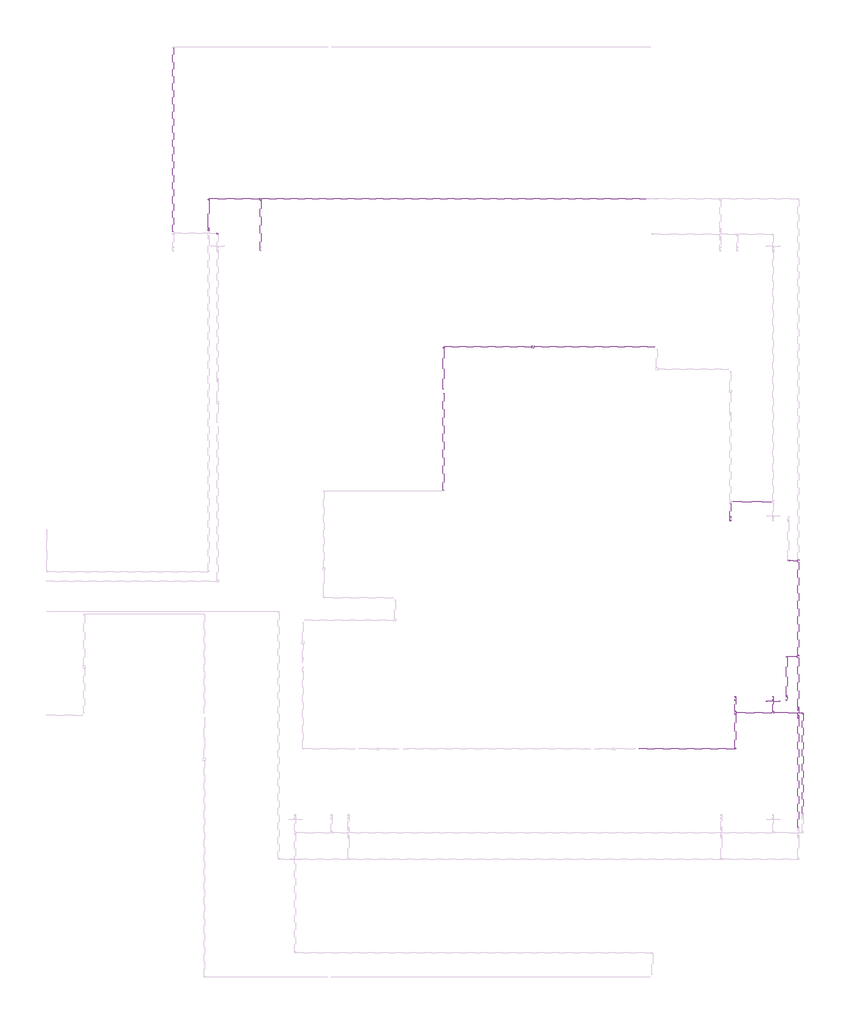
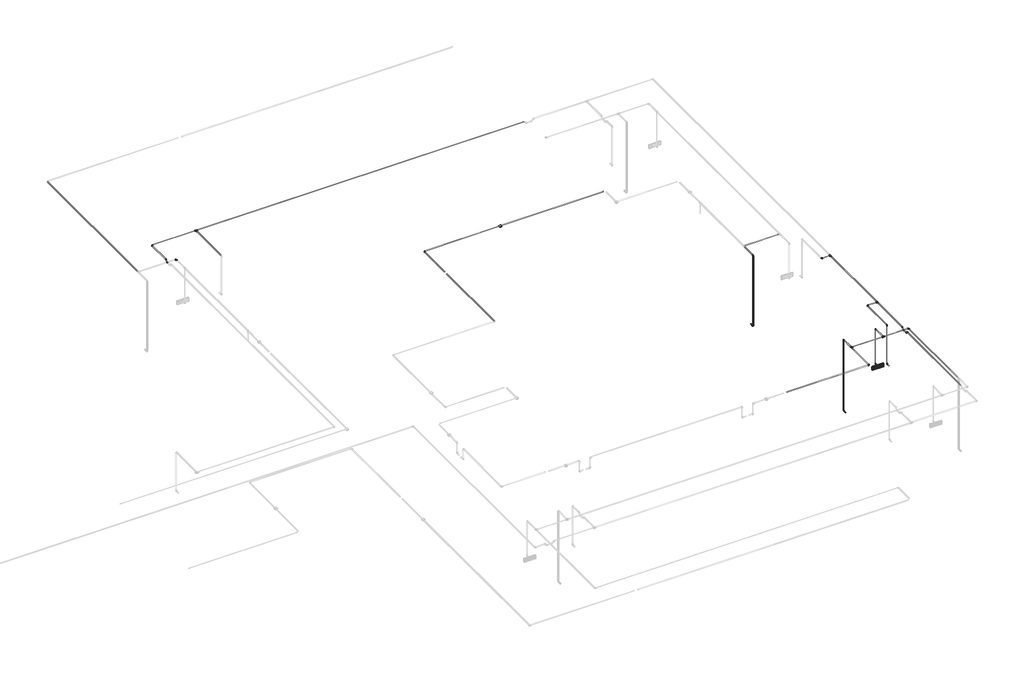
# One storey, part 12 of 13: 36 cable carrier segments, 26 cable carrier fittings, 2 alarms.
"""IFC4 building model written with IfcOpenShell, lengths in millimetres."""

from ifc_helpers import new_model, si_unit, point, frame, frame_2d, origin, place, context, project, spatial, circle_curve, trimmed, segment, composite_curve, outline, extrude, transform, mapped, element, save
from components import alarm_4b7e8fd8, alarm_a2247946, cable_carrier_fitting_69f1a801, cable_carrier_fitting_8122f9af, cable_carrier_fitting_8fd13dfc

model = new_model("IFC4")

# Units and contexts
model_context = context("Model", 3, world=origin())
ifc_project = project(units=[si_unit("LENGTHUNIT", "METRE", prefix="MILLI")], contexts=[model_context])

# Site, building, storey
site = spatial("IfcSite", under=ifc_project)
building = spatial("IfcBuilding", under=site)
storey = spatial("IfcBuildingStorey", under=building, Name="2 этаж", Elevation=3500.0)

# Alarms
placement = place(None, origin())
alarm_shape = alarm_4b7e8fd8(model_context)
element("IfcAlarm", 1, ObjectType="RBZ_Оповещатель_Световой_Рубеж_ОПОП1-R3(грань) : ОПОП 1-R3 \"Выход\"", at=placement, inside=storey, context=model_context, shape_type="MappedRepresentation", body=[
    mapped(alarm_shape, transform((19112.6759979, 2468.1849883, 6000.0), x_axis=(1.0, 0.0, 0.0), y_axis=(0.0, 0.0, 1.0), z_axis=(0.0, -1.0, 0.0))),
])
alarm_2_shape = alarm_a2247946(model_context)
element("IfcAlarm", 2, ObjectType="RBZ_ИзоляторШлейфа_Рубеж_ИЗ-1_прот.R3(плоскость) : ИЗ-1 прот.R3", at=placement, inside=storey, context=model_context, shape_type="MappedRepresentation", body=[
    mapped(alarm_2_shape, transform((13700.1257851, 10444.6370105, 6997.7), x_axis=(1.0, 0.0, 0.0), y_axis=(0.0, 1.0, 0.0), z_axis=(0.0, 0.0, 1.0))),
])

# Cable carrier fittings
cable_carrier_fitting_shape = cable_carrier_fitting_69f1a801(model_context)
element("IfcCableCarrierFitting", 3, ObjectType="ADSK_Поворот_Минимальный размер : Неспецифицируемый", at=placement, inside=storey, context=model_context, shape_type="MappedRepresentation", body=[
    mapped(cable_carrier_fitting_shape, transform((19452.6759979, 5624.6370105, 6990.0), x_axis=(0.0, -1.0, 0.0), y_axis=(1.0, 0.0, 0.0), z_axis=(0.0, 0.0, 1.0))),
])
element("IfcCableCarrierFitting", 4, ObjectType="ADSK_Поворот_Минимальный размер : Неспецифицируемый", at=placement, inside=storey, context=model_context, shape_type="MappedRepresentation", body=[
    mapped(cable_carrier_fitting_shape, transform((19417.6759979, 2565.3847939, 5897.4861504), x_axis=(0.0, 1.0, 0.0), y_axis=(0.0, 0.0, 1.0), z_axis=(1.0, 0.0, 0.0))),
])
element("IfcCableCarrierFitting", 5, ObjectType="ADSK_Поворот_Минимальный размер : Неспецифицируемый", at=placement, inside=storey, context=model_context, shape_type="MappedRepresentation", body=[
    mapped(cable_carrier_fitting_shape, transform((19417.6759979, 2565.3847939, 6990.0), x_axis=(0.0, 0.0, 1.0), y_axis=(0.0, 1.0, 0.0), z_axis=(-1.0, 0.0, 0.0))),
])
element("IfcCableCarrierFitting", 6, ObjectType="ADSK_Поворот_Минимальный размер : Неспецифицируемый", at=placement, inside=storey, context=model_context, shape_type="MappedRepresentation", body=[
    mapped(cable_carrier_fitting_shape, transform((19417.6759979, 3468.1849883, 6990.0), x_axis=(-1.0, 0.0, 0.0), y_axis=(0.0, -1.0, 0.0), z_axis=(0.0, 0.0, 1.0))),
])
element("IfcCableCarrierFitting", 7, ObjectType="ADSK_Поворот_Минимальный размер : Неспецифицируемый", at=placement, inside=storey, context=model_context, shape_type="MappedRepresentation", body=[
    mapped(cable_carrier_fitting_shape, transform((19782.6759979, 2200.701198, 6986.95), x_axis=(0.0, 1.0, 0.0), y_axis=(-1.0, 0.0, 0.0), z_axis=(0.0, 0.0, 1.0))),
])
element("IfcCableCarrierFitting", 8, ObjectType="ADSK_Поворот_Минимальный размер : Неспецифицируемый", at=placement, inside=storey, context=model_context, shape_type="MappedRepresentation", body=[
    mapped(cable_carrier_fitting_shape, transform((19112.6759979, 2565.3847939, 6000.0), x_axis=(0.0, 1.0, 0.0), y_axis=(0.0, 0.0, 1.0), z_axis=(1.0, 0.0, 0.0))),
])
element("IfcCableCarrierFitting", 9, ObjectType="ADSK_Поворот_Минимальный размер : Неспецифицируемый", at=placement, inside=storey, context=model_context, shape_type="MappedRepresentation", body=[
    mapped(cable_carrier_fitting_shape, transform((19112.6759979, 2565.3847939, 6986.95), x_axis=(0.0, 0.0, 1.0), y_axis=(0.0, -1.0, 0.0), z_axis=(1.0, 0.0, 0.0))),
])
element("IfcCableCarrierFitting", 10, ObjectType="ADSK_Поворот_Минимальный размер : Неспецифицируемый", at=placement, inside=storey, context=model_context, shape_type="MappedRepresentation", body=[
    mapped(cable_carrier_fitting_shape, transform((18262.6759979, 1384.6370105, 6986.95), x_axis=(1.0, 0.0, 0.0), y_axis=(0.0, 1.0, 0.0), z_axis=(0.0, 0.0, 1.0))),
])
element("IfcCableCarrierFitting", 11, ObjectType="ADSK_Поворот_Минимальный размер : Неспецифицируемый", at=placement, inside=storey, context=model_context, shape_type="MappedRepresentation", body=[
    mapped(cable_carrier_fitting_shape, transform((18262.6759979, 2565.3847939, 5000.0), x_axis=(0.0, 1.0, 0.0), y_axis=(0.0, 0.0, 1.0), z_axis=(1.0, 0.0, 0.0))),
])
element("IfcCableCarrierFitting", 12, ObjectType="ADSK_Поворот_Минимальный размер : Неспецифицируемый", at=placement, inside=storey, context=model_context, shape_type="MappedRepresentation", body=[
    mapped(cable_carrier_fitting_shape, transform((18262.6759979, 2565.3847939, 6986.95), x_axis=(0.0, 0.0, 1.0), y_axis=(0.0, -1.0, 0.0), z_axis=(1.0, 0.0, 0.0))),
])
element("IfcCableCarrierFitting", 13, ObjectType="ADSK_Поворот_Минимальный размер : Неспецифицируемый", at=placement, inside=storey, context=model_context, shape_type="MappedRepresentation", body=[
    mapped(cable_carrier_fitting_shape, transform((11682.6759979, 10444.6370105, 6986.95), x_axis=(-1.0, 0.0, 0.0), y_axis=(0.0, -1.0, 0.0), z_axis=(0.0, 0.0, 1.0))),
])
element("IfcCableCarrierFitting", 14, ObjectType="ADSK_Поворот_Минимальный размер : Неспецифицируемый", at=placement, inside=storey, context=model_context, shape_type="MappedRepresentation", body=[
    mapped(cable_carrier_fitting_shape, transform((18152.6759979, 6527.4372049, 5000.0), x_axis=(0.0, -1.0, 0.0), y_axis=(0.0, 0.0, 1.0), z_axis=(-1.0, 0.0, 0.0))),
])
element("IfcCableCarrierFitting", 15, ObjectType="ADSK_Поворот_Минимальный размер : Неспецифицируемый", at=placement, inside=storey, context=model_context, shape_type="MappedRepresentation", body=[
    mapped(cable_carrier_fitting_shape, transform((18152.6759979, 6527.4372049, 6986.95), x_axis=(0.0, 0.0, 1.0), y_axis=(0.0, 1.0, 0.0), z_axis=(-1.0, 0.0, 0.0))),
])
element("IfcCableCarrierFitting", 16, ObjectType="ADSK_Поворот_Минимальный размер : Неспецифицируемый", at=placement, inside=storey, context=model_context, shape_type="MappedRepresentation", body=[
    mapped(cable_carrier_fitting_shape, transform((6587.6759979, 13009.6578584, 6986.95), x_axis=(0.0, 1.0, 0.0), y_axis=(-1.0, 0.0, 0.0), z_axis=(0.0, 0.0, 1.0))),
])
element("IfcCableCarrierFitting", 17, ObjectType="ADSK_Поворот_Минимальный размер : Неспецифицируемый", at=placement, inside=storey, context=model_context, shape_type="MappedRepresentation", body=[
    mapped(cable_carrier_fitting_shape, transform((6382.6759979, 13781.6519004, 6990.0), x_axis=(-1.0, 0.0, 0.0), y_axis=(0.0, -1.0, 0.0), z_axis=(0.0, 0.0, 1.0))),
])
cable_carrier_fitting_2_shape = cable_carrier_fitting_8122f9af(model_context)
element("IfcCableCarrierFitting", 18, ObjectType="ADSK_Поворот_Минимальный размер : Неспецифицируемый", at=placement, inside=storey, context=model_context, shape_type="MappedRepresentation", body=[
    mapped(cable_carrier_fitting_2_shape, transform((19682.6759979, 2317.2734693, 6990.0), x_axis=(0.0, -1.0, 0.0), y_axis=(0.0, 0.0, -1.0), z_axis=(1.0, 0.0, 0.0))),
])
element("IfcCableCarrierFitting", 19, ObjectType="ADSK_Поворот_Минимальный размер : Неспецифицируемый", at=placement, inside=storey, context=model_context, shape_type="MappedRepresentation", body=[
    mapped(cable_carrier_fitting_2_shape, transform((19682.6759979, 2267.2734693, 6940.0), x_axis=(0.0, -0.707106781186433, -0.7071067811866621), y_axis=(0.0, -0.7071067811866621, 0.707106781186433), z_axis=(-1.0, 0.0, 0.0))),
])
element("IfcCableCarrierFitting", 20, ObjectType="ADSK_Поворот_Минимальный размер : Неспецифицируемый", at=placement, inside=storey, context=model_context, shape_type="MappedRepresentation", body=[
    mapped(cable_carrier_fitting_2_shape, transform((19682.6759979, 2134.1289268, 6940.0), x_axis=(0.0, -1.0, 0.0), y_axis=(0.0, 0.0, 1.0), z_axis=(-1.0, 0.0, 0.0))),
])
element("IfcCableCarrierFitting", 21, ObjectType="ADSK_Поворот_Минимальный размер : Неспецифицируемый", at=placement, inside=storey, context=model_context, shape_type="MappedRepresentation", body=[
    mapped(cable_carrier_fitting_2_shape, transform((19682.6759979, 2084.1289268, 6990.0), x_axis=(0.0, -0.7071067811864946, 0.7071067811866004), y_axis=(0.0, -0.7071067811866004, -0.7071067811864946), z_axis=(1.0, 0.0, 0.0))),
])
element("IfcCableCarrierFitting", 22, ObjectType="ADSK_Поворот_Минимальный размер : Неспецифицируемый", at=placement, inside=storey, context=model_context, shape_type="MappedRepresentation", body=[
    mapped(cable_carrier_fitting_2_shape, transform((6382.6759979, 13076.2301296, 6940.0), x_axis=(0.0, 1.0, 0.0), y_axis=(0.0, 0.0, 1.0), z_axis=(1.0, 0.0, 0.0))),
])
element("IfcCableCarrierFitting", 23, ObjectType="ADSK_Поворот_Минимальный размер : Неспецифицируемый", at=placement, inside=storey, context=model_context, shape_type="MappedRepresentation", body=[
    mapped(cable_carrier_fitting_2_shape, transform((6382.6759979, 13126.2301296, 6990.0), x_axis=(0.0, 0.7071067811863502, 0.7071067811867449), y_axis=(0.0, 0.7071067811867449, -0.7071067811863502), z_axis=(-1.0, 0.0, 0.0))),
])
cable_carrier_fitting_3_shape = cable_carrier_fitting_8fd13dfc(model_context)
element("IfcCableCarrierFitting", 24, ObjectType="ADSK_Тройник : ПВХ", at=placement, inside=storey, context=model_context, shape_type="MappedRepresentation", body=[
    mapped(cable_carrier_fitting_3_shape, transform((7560.1759979, 13781.6519004, 6990.0), x_axis=(1.0, 0.0, 0.0), y_axis=(0.0, 1.0, 0.0), z_axis=(0.0, 0.0, 1.0))),
])
element("IfcCableCarrierFitting", 25, ObjectType="ADSK_Тройник : ПВХ", at=placement, inside=storey, context=model_context, shape_type="MappedRepresentation", body=[
    mapped(cable_carrier_fitting_3_shape, transform((19682.6759979, 5624.6370105, 6990.0), x_axis=(0.0, -1.0, 0.0), y_axis=(1.0, 0.0, 0.0), z_axis=(0.0, 0.0, 1.0))),
])
element("IfcCableCarrierFitting", 26, ObjectType="ADSK_Тройник : ПВХ", at=placement, inside=storey, context=model_context, shape_type="MappedRepresentation", body=[
    mapped(cable_carrier_fitting_3_shape, transform((19682.6759979, 3468.1849883, 6990.0), x_axis=(0.0, -1.0, 0.0), y_axis=(1.0, 0.0, 0.0), z_axis=(0.0, 0.0, 1.0))),
])
element("IfcCableCarrierFitting", 27, ObjectType="ADSK_Тройник : ПВХ", at=placement, inside=storey, context=model_context, shape_type="MappedRepresentation", body=[
    mapped(cable_carrier_fitting_3_shape, transform((19112.6759979, 2200.701198, 6986.95), x_axis=(-1.0, 0.0, 0.0), y_axis=(0.0, -1.0, 0.0), z_axis=(0.0, 0.0, 1.0))),
])
element("IfcCableCarrierFitting", 28, ObjectType="ADSK_Тройник : ПВХ", at=placement, inside=storey, context=model_context, shape_type="MappedRepresentation", body=[
    mapped(cable_carrier_fitting_3_shape, transform((18262.6759979, 2200.701198, 6986.95), x_axis=(0.0, 1.0, 0.0), y_axis=(-1.0, 0.0, 0.0), z_axis=(0.0, 0.0, 1.0))),
])

# Cable carrier segments
element("IfcCableCarrierSegment", 29, ObjectType="Гофрированная труба", at=placement, inside=storey, context=model_context, shape_type="SweptSolid", body=[
    extrude(outline(composite_curve([segment(trimmed(circle_curve(frame_2d((2200.701198, 6986.95)), 10.0), [point((2190.701198, 6986.95))], [point((2200.701198, 6996.95))], False, "CARTESIAN"), True, "CONTINUOUS"), segment(trimmed(circle_curve(frame_2d((2200.701198, 6986.95)), 10.0), [point((2200.701198, 6996.95))], [point((2210.701198, 6986.95))], False, "CARTESIAN"), True, "CONTINUOUS"), segment(trimmed(circle_curve(frame_2d((2200.701198, 6986.95)), 10.0), [point((2210.701198, 6986.95))], [point((2200.701198, 6976.95))], False, "CARTESIAN"), True, "CONTINUOUS"), segment(trimmed(circle_curve(frame_2d((2200.701198, 6986.95)), 10.0), [point((2200.701198, 6976.95))], [point((2190.701198, 6986.95))], False, "CARTESIAN"), True, "CONTINUOUS")], self_intersect=False)), frame((19142.6759979, 0.0, 0.0), z_axis=(1.0, 0.0, 0.0), x_axis=(0.0, 1.0, 0.0)), (0.0, 0.0, 1.0), 619.0),
])
element("IfcCableCarrierSegment", 30, ObjectType="Гофрированная труба", at=placement, inside=storey, context=model_context, shape_type="SweptSolid", body=[
    extrude(outline(composite_curve([segment(trimmed(circle_curve(frame_2d((6954.6370105, 6986.9498328)), 10.0), [point((6964.6370105, 6986.9498328))], [point((6954.6370105, 6976.9498328))], False, "CARTESIAN"), True, "CONTINUOUS"), segment(trimmed(circle_curve(frame_2d((6954.6370105, 6986.9498328)), 10.0), [point((6954.6370105, 6976.9498328))], [point((6944.6370105, 6986.9498328))], False, "CARTESIAN"), True, "CONTINUOUS"), segment(trimmed(circle_curve(frame_2d((6954.6370105, 6986.9498328)), 10.0), [point((6944.6370105, 6986.9498328))], [point((6954.6370105, 6996.9498328))], False, "CARTESIAN"), True, "CONTINUOUS"), segment(trimmed(circle_curve(frame_2d((6954.6370105, 6986.9498328)), 10.0), [point((6954.6370105, 6996.9498328))], [point((6964.6370105, 6986.9498328))], False, "CARTESIAN"), True, "CONTINUOUS")], self_intersect=False)), frame((18182.6759979, 0.0, 0.0), z_axis=(1.0, 0.0, 0.0), x_axis=(0.0, 1.0, 0.0)), (0.0, 0.0, 1.0), 900.0),
])
element("IfcCableCarrierSegment", 31, ObjectType="Гофрированная труба", at=placement, inside=storey, context=model_context, shape_type="SweptSolid", body=[
    extrude(outline(composite_curve([segment(trimmed(circle_curve(frame_2d((6986.95, 5582.6759979)), 10.0), [point((6986.95, 5592.6759979))], [point((6996.95, 5582.6759979))], False, "CARTESIAN"), True, "CONTINUOUS"), segment(trimmed(circle_curve(frame_2d((6986.95, 5582.6759979)), 10.0), [point((6996.95, 5582.6759979))], [point((6986.95, 5572.6759979))], False, "CARTESIAN"), True, "CONTINUOUS"), segment(trimmed(circle_curve(frame_2d((6986.95, 5582.6759979)), 10.0), [point((6986.95, 5572.6759979))], [point((6976.95, 5582.6759979))], False, "CARTESIAN"), True, "CONTINUOUS"), segment(trimmed(circle_curve(frame_2d((6986.95, 5582.6759979)), 10.0), [point((6976.95, 5582.6759979))], [point((6986.95, 5592.6759979))], False, "CARTESIAN"), True, "CONTINUOUS")], self_intersect=False)), frame((0.0, 13039.6578584, 0.0), z_axis=(0.0, 1.0, 0.0), x_axis=(0.0, 0.0, 1.0)), (0.0, 0.0, 1.0), 4143.9791522),
])
element("IfcCableCarrierSegment", 32, ObjectType="Гофрированная труба", at=placement, inside=storey, context=model_context, shape_type="SweptSolid", body=[
    extrude(outline(composite_curve([segment(trimmed(circle_curve(frame_2d((10444.6370105, 6986.95)), 10.0), [point((10454.6370105, 6986.95))], [point((10444.6370105, 6976.95))], False, "CARTESIAN"), True, "CONTINUOUS"), segment(trimmed(circle_curve(frame_2d((10444.6370105, 6986.95)), 10.0), [point((10444.6370105, 6976.95))], [point((10434.6370105, 6986.95))], False, "CARTESIAN"), True, "CONTINUOUS"), segment(trimmed(circle_curve(frame_2d((10444.6370105, 6986.95)), 10.0), [point((10434.6370105, 6986.95))], [point((10444.6370105, 6996.95))], False, "CARTESIAN"), True, "CONTINUOUS"), segment(trimmed(circle_curve(frame_2d((10444.6370105, 6986.95)), 10.0), [point((10444.6370105, 6996.95))], [point((10454.6370105, 6986.95))], False, "CARTESIAN"), True, "CONTINUOUS")], self_intersect=False)), frame((13726.1257851, 0.0, 0.0), z_axis=(1.0, 0.0, 0.0), x_axis=(0.0, 1.0, 0.0)), (0.0, 0.0, 1.0), 2722.5502128),
])
element("IfcCableCarrierSegment", 33, ObjectType="Гофрированная труба", at=placement, inside=storey, context=model_context, shape_type="SweptSolid", body=[
    extrude(outline(composite_curve([segment(trimmed(circle_curve(frame_2d((6986.95, 11682.6759979)), 10.0), [point((6986.95, 11692.6759979))], [point((6996.95, 11682.6759979))], False, "CARTESIAN"), True, "CONTINUOUS"), segment(trimmed(circle_curve(frame_2d((6986.95, 11682.6759979)), 10.0), [point((6996.95, 11682.6759979))], [point((6986.95, 11672.6759979))], False, "CARTESIAN"), True, "CONTINUOUS"), segment(trimmed(circle_curve(frame_2d((6986.95, 11682.6759979)), 10.0), [point((6986.95, 11672.6759979))], [point((6976.95, 11682.6759979))], False, "CARTESIAN"), True, "CONTINUOUS"), segment(trimmed(circle_curve(frame_2d((6986.95, 11682.6759979)), 10.0), [point((6976.95, 11682.6759979))], [point((6986.95, 11692.6759979))], False, "CARTESIAN"), True, "CONTINUOUS")], self_intersect=False)), frame((0.0, 9491.1370105, 0.0), z_axis=(0.0, 1.0, 0.0), x_axis=(0.0, 0.0, 1.0)), (0.0, 0.0, 1.0), 932.5),
])
element("IfcCableCarrierSegment", 34, ObjectType="Гофрированная труба", at=placement, inside=storey, context=model_context, shape_type="SweptSolid", body=[
    extrude(outline(composite_curve([segment(trimmed(circle_curve(frame_2d((10444.6370105, 6986.95)), 10.0), [point((10434.6370105, 6986.95))], [point((10444.6370105, 6996.95))], False, "CARTESIAN"), True, "CONTINUOUS"), segment(trimmed(circle_curve(frame_2d((10444.6370105, 6986.95)), 10.0), [point((10444.6370105, 6996.95))], [point((10454.6370105, 6986.95))], False, "CARTESIAN"), True, "CONTINUOUS"), segment(trimmed(circle_curve(frame_2d((10444.6370105, 6986.95)), 10.0), [point((10454.6370105, 6986.95))], [point((10444.6370105, 6976.95))], False, "CARTESIAN"), True, "CONTINUOUS"), segment(trimmed(circle_curve(frame_2d((10444.6370105, 6986.95)), 10.0), [point((10444.6370105, 6976.95))], [point((10434.6370105, 6986.95))], False, "CARTESIAN"), True, "CONTINUOUS")], self_intersect=False)), frame((11703.6759979, 0.0, 0.0), z_axis=(1.0, 0.0, 0.0), x_axis=(0.0, 1.0, 0.0)), (0.0, 0.0, 1.0), 1970.4497872),
])
element("IfcCableCarrierSegment", 35, ObjectType="Гофрированная труба", at=placement, inside=storey, context=model_context, shape_type="SweptSolid", body=[
    extrude(outline(composite_curve([segment(trimmed(circle_curve(frame_2d((6986.95, 11682.6759979)), 10.0), [point((6986.95, 11672.6759979))], [point((6976.95, 11682.6759979))], False, "CARTESIAN"), True, "CONTINUOUS"), segment(trimmed(circle_curve(frame_2d((6986.95, 11682.6759979)), 10.0), [point((6976.95, 11682.6759979))], [point((6986.95, 11692.6759979))], False, "CARTESIAN"), True, "CONTINUOUS"), segment(trimmed(circle_curve(frame_2d((6986.95, 11682.6759979)), 10.0), [point((6986.95, 11692.6759979))], [point((6996.95, 11682.6759979))], False, "CARTESIAN"), True, "CONTINUOUS"), segment(trimmed(circle_curve(frame_2d((6986.95, 11682.6759979)), 10.0), [point((6996.95, 11682.6759979))], [point((6986.95, 11672.6759979))], False, "CARTESIAN"), True, "CONTINUOUS")], self_intersect=False)), frame((0.0, 7219.1370105, 0.0), z_axis=(0.0, 1.0, 0.0), x_axis=(0.0, 0.0, 1.0)), (0.0, 0.0, 1.0), 2179.0),
])
element("IfcCableCarrierSegment", 36, ObjectType="Гофрированная труба", at=placement, inside=storey, context=model_context, shape_type="SweptSolid", body=[
    extrude(outline(composite_curve([segment(trimmed(circle_curve(frame_2d((1384.6370105, 6986.95)), 10.0), [point((1394.6370105, 6986.95))], [point((1384.6370105, 6976.95))], False, "CARTESIAN"), True, "CONTINUOUS"), segment(trimmed(circle_curve(frame_2d((1384.6370105, 6986.95)), 10.0), [point((1384.6370105, 6976.95))], [point((1374.6370105, 6986.95))], False, "CARTESIAN"), True, "CONTINUOUS"), segment(trimmed(circle_curve(frame_2d((1384.6370105, 6986.95)), 10.0), [point((1374.6370105, 6986.95))], [point((1384.6370105, 6996.95))], False, "CARTESIAN"), True, "CONTINUOUS"), segment(trimmed(circle_curve(frame_2d((1384.6370105, 6986.95)), 10.0), [point((1384.6370105, 6996.95))], [point((1394.6370105, 6986.95))], False, "CARTESIAN"), True, "CONTINUOUS")], self_intersect=False)), frame((16084.1759979, 0.0, 0.0), z_axis=(1.0, 0.0, 0.0), x_axis=(0.0, 1.0, 0.0)), (0.0, 0.0, 1.0), 2157.5),
])
element("IfcCableCarrierSegment", 37, ObjectType="Гофрированная труба", at=placement, inside=storey, context=model_context, shape_type="SweptSolid", body=[
    extrude(outline(composite_curve([segment(trimmed(circle_curve(frame_2d((6990.0, 7560.1759979)), 10.0), [point((6990.0, 7550.1759979))], [point((6980.0, 7560.1759979))], False, "CARTESIAN"), True, "CONTINUOUS"), segment(trimmed(circle_curve(frame_2d((6990.0, 7560.1759979)), 10.0), [point((6980.0, 7560.1759979))], [point((6990.0, 7570.1759979))], False, "CARTESIAN"), True, "CONTINUOUS"), segment(trimmed(circle_curve(frame_2d((6990.0, 7560.1759979)), 10.0), [point((6990.0, 7570.1759979))], [point((7000.0, 7560.1759979))], False, "CARTESIAN"), True, "CONTINUOUS"), segment(trimmed(circle_curve(frame_2d((6990.0, 7560.1759979)), 10.0), [point((7000.0, 7560.1759979))], [point((6990.0, 7550.1759979))], False, "CARTESIAN"), True, "CONTINUOUS")], self_intersect=False)), frame((0.0, 12628.4372049, 0.0), z_axis=(0.0, 1.0, 0.0), x_axis=(0.0, 0.0, 1.0)), (0.0, 0.0, 1.0), 1123.2146954),
])
element("IfcCableCarrierSegment", 38, ObjectType="Гофрированная труба", at=placement, inside=storey, context=model_context, shape_type="SweptSolid", body=[
    extrude(outline(composite_curve([segment(trimmed(circle_curve(frame_2d((13781.6519004, 6990.0)), 10.0), [point((13771.6519004, 6990.0))], [point((13781.6519004, 7000.0))], False, "CARTESIAN"), True, "CONTINUOUS"), segment(trimmed(circle_curve(frame_2d((13781.6519004, 6990.0)), 10.0), [point((13781.6519004, 7000.0))], [point((13791.6519004, 6990.0))], False, "CARTESIAN"), True, "CONTINUOUS"), segment(trimmed(circle_curve(frame_2d((13781.6519004, 6990.0)), 10.0), [point((13791.6519004, 6990.0))], [point((13781.6519004, 6980.0))], False, "CARTESIAN"), True, "CONTINUOUS"), segment(trimmed(circle_curve(frame_2d((13781.6519004, 6990.0)), 10.0), [point((13781.6519004, 6980.0))], [point((13771.6519004, 6990.0))], False, "CARTESIAN"), True, "CONTINUOUS")], self_intersect=False)), frame((6403.6759979, 0.0, 0.0), z_axis=(1.0, 0.0, 0.0), x_axis=(0.0, 1.0, 0.0)), (0.0, 0.0, 1.0), 1126.5),
])
element("IfcCableCarrierSegment", 39, ObjectType="Гофрированная труба", at=placement, inside=storey, context=model_context, shape_type="SweptSolid", body=[
    extrude(outline(composite_curve([segment(trimmed(circle_curve(frame_2d((5624.6370105, 6990.0)), 10.0), [point((5634.6370105, 6990.0))], [point((5624.6370105, 6980.0))], False, "CARTESIAN"), True, "CONTINUOUS"), segment(trimmed(circle_curve(frame_2d((5624.6370105, 6990.0)), 10.0), [point((5624.6370105, 6980.0))], [point((5614.6370105, 6990.0))], False, "CARTESIAN"), True, "CONTINUOUS"), segment(trimmed(circle_curve(frame_2d((5624.6370105, 6990.0)), 10.0), [point((5614.6370105, 6990.0))], [point((5624.6370105, 7000.0))], False, "CARTESIAN"), True, "CONTINUOUS"), segment(trimmed(circle_curve(frame_2d((5624.6370105, 6990.0)), 10.0), [point((5624.6370105, 7000.0))], [point((5634.6370105, 6990.0))], False, "CARTESIAN"), True, "CONTINUOUS")], self_intersect=False)), frame((19473.6759979, 0.0, 0.0), z_axis=(1.0, 0.0, 0.0), x_axis=(0.0, 1.0, 0.0)), (0.0, 0.0, 1.0), 179.0),
])
element("IfcCableCarrierSegment", 40, ObjectType="Гофрированная труба", at=placement, inside=storey, context=model_context, shape_type="SweptSolid", body=[
    extrude(outline(composite_curve([segment(trimmed(circle_curve(frame_2d((6990.0, 19417.6759979)), 10.0), [point((6990.0, 19427.6759979))], [point((7000.0, 19417.6759979))], False, "CARTESIAN"), True, "CONTINUOUS"), segment(trimmed(circle_curve(frame_2d((6990.0, 19417.6759979)), 10.0), [point((7000.0, 19417.6759979))], [point((6990.0, 19407.6759979))], False, "CARTESIAN"), True, "CONTINUOUS"), segment(trimmed(circle_curve(frame_2d((6990.0, 19417.6759979)), 10.0), [point((6990.0, 19407.6759979))], [point((6980.0, 19417.6759979))], False, "CARTESIAN"), True, "CONTINUOUS"), segment(trimmed(circle_curve(frame_2d((6990.0, 19417.6759979)), 10.0), [point((6980.0, 19417.6759979))], [point((6990.0, 19427.6759979))], False, "CARTESIAN"), True, "CONTINUOUS")], self_intersect=False)), frame((0.0, 2586.3847939, 0.0), z_axis=(0.0, 1.0, 0.0), x_axis=(0.0, 0.0, 1.0)), (0.0, 0.0, 1.0), 860.8001944),
])
element("IfcCableCarrierSegment", 41, ObjectType="Гофрированная труба", at=placement, inside=storey, context=model_context, shape_type="SweptSolid", body=[
    extrude(outline(composite_curve([segment(trimmed(circle_curve(frame_2d((5897.4861504, 19417.6759979)), 10.0), [point((5897.4861504, 19427.6759979))], [point((5907.4861504, 19417.6759979))], False, "CARTESIAN"), True, "CONTINUOUS"), segment(trimmed(circle_curve(frame_2d((5897.4861504, 19417.6759979)), 10.0), [point((5907.4861504, 19417.6759979))], [point((5897.4861504, 19407.6759979))], False, "CARTESIAN"), True, "CONTINUOUS"), segment(trimmed(circle_curve(frame_2d((5897.4861504, 19417.6759979)), 10.0), [point((5897.4861504, 19407.6759979))], [point((5887.4861504, 19417.6759979))], False, "CARTESIAN"), True, "CONTINUOUS"), segment(trimmed(circle_curve(frame_2d((5897.4861504, 19417.6759979)), 10.0), [point((5887.4861504, 19417.6759979))], [point((5897.4861504, 19427.6759979))], False, "CARTESIAN"), True, "CONTINUOUS")], self_intersect=False)), frame((0.0, 2468.1849883, 0.0), z_axis=(0.0, 1.0, 0.0), x_axis=(0.0, 0.0, 1.0)), (0.0, 0.0, 1.0), 76.1998056),
])
element("IfcCableCarrierSegment", 42, ObjectType="Гофрированная труба", at=placement, inside=storey, context=model_context, shape_type="SweptSolid", body=[
    extrude(outline(composite_curve([segment(trimmed(circle_curve(frame_2d((19417.6759979, 2565.3847939)), 10.0), [point((19407.6759979, 2565.3847939))], [point((19417.6759979, 2575.3847939))], False, "CARTESIAN"), True, "CONTINUOUS"), segment(trimmed(circle_curve(frame_2d((19417.6759979, 2565.3847939)), 10.0), [point((19417.6759979, 2575.3847939))], [point((19427.6759979, 2565.3847939))], False, "CARTESIAN"), True, "CONTINUOUS"), segment(trimmed(circle_curve(frame_2d((19417.6759979, 2565.3847939)), 10.0), [point((19427.6759979, 2565.3847939))], [point((19417.6759979, 2555.3847939))], False, "CARTESIAN"), True, "CONTINUOUS"), segment(trimmed(circle_curve(frame_2d((19417.6759979, 2565.3847939)), 10.0), [point((19417.6759979, 2555.3847939))], [point((19407.6759979, 2565.3847939))], False, "CARTESIAN"), True, "CONTINUOUS")], self_intersect=False)), frame((0.0, 0.0, 5918.4861504), z_axis=(0.0, 0.0, 1.0), x_axis=(1.0, 0.0, 0.0)), (0.0, 0.0, 1.0), 1050.5138496),
])
element("IfcCableCarrierSegment", 43, ObjectType="Гофрированная труба", at=placement, inside=storey, context=model_context, shape_type="SweptSolid", body=[
    extrude(outline(composite_curve([segment(trimmed(circle_curve(frame_2d((3468.1849883, 6990.0)), 10.0), [point((3478.1849883, 6990.0))], [point((3468.1849883, 6980.0))], False, "CARTESIAN"), True, "CONTINUOUS"), segment(trimmed(circle_curve(frame_2d((3468.1849883, 6990.0)), 10.0), [point((3468.1849883, 6980.0))], [point((3458.1849883, 6990.0))], False, "CARTESIAN"), True, "CONTINUOUS"), segment(trimmed(circle_curve(frame_2d((3468.1849883, 6990.0)), 10.0), [point((3458.1849883, 6990.0))], [point((3468.1849883, 7000.0))], False, "CARTESIAN"), True, "CONTINUOUS"), segment(trimmed(circle_curve(frame_2d((3468.1849883, 6990.0)), 10.0), [point((3468.1849883, 7000.0))], [point((3478.1849883, 6990.0))], False, "CARTESIAN"), True, "CONTINUOUS")], self_intersect=False)), frame((19438.6759979, 0.0, 0.0), z_axis=(1.0, 0.0, 0.0), x_axis=(0.0, 1.0, 0.0)), (0.0, 0.0, 1.0), 214.0),
])
element("IfcCableCarrierSegment", 44, ObjectType="Гофрированная труба", at=placement, inside=storey, context=model_context, shape_type="SweptSolid", body=[
    extrude(outline(composite_curve([segment(trimmed(circle_curve(frame_2d((6990.0, 19682.6759979)), 10.0), [point((6990.0, 19672.6759979))], [point((6980.0, 19682.6759979))], False, "CARTESIAN"), True, "CONTINUOUS"), segment(trimmed(circle_curve(frame_2d((6990.0, 19682.6759979)), 10.0), [point((6980.0, 19682.6759979))], [point((6990.0, 19692.6759979))], False, "CARTESIAN"), True, "CONTINUOUS"), segment(trimmed(circle_curve(frame_2d((6990.0, 19682.6759979)), 10.0), [point((6990.0, 19692.6759979))], [point((7000.0, 19682.6759979))], False, "CARTESIAN"), True, "CONTINUOUS"), segment(trimmed(circle_curve(frame_2d((6990.0, 19682.6759979)), 10.0), [point((7000.0, 19682.6759979))], [point((6990.0, 19672.6759979))], False, "CARTESIAN"), True, "CONTINUOUS")], self_intersect=False)), frame((0.0, 3498.1849883, 0.0), z_axis=(0.0, 1.0, 0.0), x_axis=(0.0, 0.0, 1.0)), (0.0, 0.0, 1.0), 2096.4520223),
])
element("IfcCableCarrierSegment", 45, ObjectType="Гофрированная труба", at=placement, inside=storey, context=model_context, shape_type="SweptSolid", body=[
    extrude(outline(composite_curve([segment(trimmed(circle_curve(frame_2d((6940.0, 19682.6759979)), 10.0), [point((6940.0, 19672.6759979))], [point((6930.0, 19682.6759979))], False, "CARTESIAN"), True, "CONTINUOUS"), segment(trimmed(circle_curve(frame_2d((6940.0, 19682.6759979)), 10.0), [point((6930.0, 19682.6759979))], [point((6940.0, 19692.6759979))], False, "CARTESIAN"), True, "CONTINUOUS"), segment(trimmed(circle_curve(frame_2d((6940.0, 19682.6759979)), 10.0), [point((6940.0, 19692.6759979))], [point((6950.0, 19682.6759979))], False, "CARTESIAN"), True, "CONTINUOUS"), segment(trimmed(circle_curve(frame_2d((6940.0, 19682.6759979)), 10.0), [point((6950.0, 19682.6759979))], [point((6940.0, 19672.6759979))], False, "CARTESIAN"), True, "CONTINUOUS")], self_intersect=False)), frame((0.0, 2143.413198, 0.0), z_axis=(0.0, 1.0, 0.0), x_axis=(0.0, 0.0, 1.0)), (0.0, 0.0, 1.0), 114.576),
])
element("IfcCableCarrierSegment", 46, ObjectType="Гофрированная труба", at=placement, inside=storey, context=model_context, shape_type="SweptSolid", body=[
    extrude(outline(composite_curve([segment(trimmed(circle_curve(frame_2d((6990.0, 19682.6759979)), 10.0), [point((6990.0, 19672.6759979))], [point((6980.0, 19682.6759979))], False, "CARTESIAN"), True, "CONTINUOUS"), segment(trimmed(circle_curve(frame_2d((6990.0, 19682.6759979)), 10.0), [point((6980.0, 19682.6759979))], [point((6990.0, 19692.6759979))], False, "CARTESIAN"), True, "CONTINUOUS"), segment(trimmed(circle_curve(frame_2d((6990.0, 19682.6759979)), 10.0), [point((6990.0, 19692.6759979))], [point((7000.0, 19682.6759979))], False, "CARTESIAN"), True, "CONTINUOUS"), segment(trimmed(circle_curve(frame_2d((6990.0, 19682.6759979)), 10.0), [point((7000.0, 19682.6759979))], [point((6990.0, 19672.6759979))], False, "CARTESIAN"), True, "CONTINUOUS")], self_intersect=False)), frame((0.0, 2326.5577405, 0.0), z_axis=(0.0, 1.0, 0.0), x_axis=(0.0, 0.0, 1.0)), (0.0, 0.0, 1.0), 1111.6272477),
])
element("IfcCableCarrierSegment", 47, ObjectType="Гофрированная труба", at=placement, inside=storey, context=model_context, shape_type="SweptSolid", body=[
    extrude(outline(composite_curve([segment(trimmed(circle_curve(frame_2d((0.0, -10.0000001)), 10.0), [point((-10.0, -10.0000001))], [point((0.0, 0.0))], False, "CARTESIAN"), True, "CONTINUOUS"), segment(trimmed(circle_curve(frame_2d((0.0, -10.0000001)), 10.0), [point((0.0, 0.0))], [point((10.0, -10.0000001))], False, "CARTESIAN"), True, "CONTINUOUS"), segment(trimmed(circle_curve(frame_2d((0.0, -10.0000001)), 10.0), [point((10.0, -10.0000001))], [point((0.0, -20.0000001))], False, "CARTESIAN"), True, "CONTINUOUS"), segment(trimmed(circle_curve(frame_2d((0.0, -10.0000001)), 10.0), [point((0.0, -20.0000001))], [point((-10.0, -10.0000001))], False, "CARTESIAN"), True, "CONTINUOUS")], self_intersect=False)), frame((19682.6759979, 2280.9095083, 6939.4939033), z_axis=(0.0, 0.707106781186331, 0.7071067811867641), x_axis=(1.0, 0.0, 0.0)), (0.0, 0.0, 1.0), 52.1421356),
])
element("IfcCableCarrierSegment", 48, ObjectType="Гофрированная труба", at=placement, inside=storey, context=model_context, shape_type="SweptSolid", body=[
    extrude(outline(composite_curve([segment(trimmed(circle_curve(frame_2d((6990.0, 19682.6759979)), 10.0), [point((6990.0, 19672.6759979))], [point((6980.0, 19682.6759979))], False, "CARTESIAN"), True, "CONTINUOUS"), segment(trimmed(circle_curve(frame_2d((6990.0, 19682.6759979)), 10.0), [point((6980.0, 19682.6759979))], [point((6990.0, 19692.6759979))], False, "CARTESIAN"), True, "CONTINUOUS"), segment(trimmed(circle_curve(frame_2d((6990.0, 19682.6759979)), 10.0), [point((6990.0, 19692.6759979))], [point((7000.0, 19682.6759979))], False, "CARTESIAN"), True, "CONTINUOUS"), segment(trimmed(circle_curve(frame_2d((6990.0, 19682.6759979)), 10.0), [point((7000.0, 19682.6759979))], [point((6990.0, 19672.6759979))], False, "CARTESIAN"), True, "CONTINUOUS")], self_intersect=False)), frame((0.0, -379.506447, 0.0), z_axis=(0.0, 1.0, 0.0), x_axis=(0.0, 0.0, 1.0)), (0.0, 0.0, 1.0), 2454.3511025),
])
element("IfcCableCarrierSegment", 49, ObjectType="Гофрированная труба", at=placement, inside=storey, context=model_context, shape_type="SweptSolid", body=[
    extrude(outline(composite_curve([segment(trimmed(circle_curve(frame_2d((0.0, 10.0000001)), 10.0), [point((-10.0, 10.0000001))], [point((0.0, 20.0))], False, "CARTESIAN"), True, "CONTINUOUS"), segment(trimmed(circle_curve(frame_2d((0.0, 10.0000001)), 10.0), [point((0.0, 20.0))], [point((10.0, 10.0000001))], False, "CARTESIAN"), True, "CONTINUOUS"), segment(trimmed(circle_curve(frame_2d((0.0, 10.0000001)), 10.0), [point((10.0, 10.0000001))], [point((0.0, 0.0))], False, "CARTESIAN"), True, "CONTINUOUS"), segment(trimmed(circle_curve(frame_2d((0.0, 10.0000001)), 10.0), [point((0.0, 0.0))], [point((-10.0, 10.0000001))], False, "CARTESIAN"), True, "CONTINUOUS")], self_intersect=False)), frame((19682.6759979, 2120.4928878, 6939.4939033), z_axis=(0.0, -0.7071067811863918, 0.7071067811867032), x_axis=(1.0, 0.0, 0.0)), (0.0, 0.0, 1.0), 52.1421356),
])
element("IfcCableCarrierSegment", 50, ObjectType="Гофрированная труба", at=placement, inside=storey, context=model_context, shape_type="SweptSolid", body=[
    extrude(outline(composite_curve([segment(trimmed(circle_curve(frame_2d((13781.6519004, 6990.0)), 10.0), [point((13771.6519004, 6990.0))], [point((13781.6519004, 7000.0))], False, "CARTESIAN"), True, "CONTINUOUS"), segment(trimmed(circle_curve(frame_2d((13781.6519004, 6990.0)), 10.0), [point((13781.6519004, 7000.0))], [point((13791.6519004, 6990.0))], False, "CARTESIAN"), True, "CONTINUOUS"), segment(trimmed(circle_curve(frame_2d((13781.6519004, 6990.0)), 10.0), [point((13791.6519004, 6990.0))], [point((13781.6519004, 6980.0))], False, "CARTESIAN"), True, "CONTINUOUS"), segment(trimmed(circle_curve(frame_2d((13781.6519004, 6990.0)), 10.0), [point((13781.6519004, 6980.0))], [point((13771.6519004, 6990.0))], False, "CARTESIAN"), True, "CONTINUOUS")], self_intersect=False)), frame((7590.1759979, 0.0, 0.0), z_axis=(1.0, 0.0, 0.0), x_axis=(0.0, 1.0, 0.0)), (0.0, 0.0, 1.0), 8671.6434575),
])
element("IfcCableCarrierSegment", 51, ObjectType="Гофрированная труба", at=placement, inside=storey, context=model_context, shape_type="SweptSolid", body=[
    extrude(outline(composite_curve([segment(trimmed(circle_curve(frame_2d((6990.0, 6382.6759979)), 10.0), [point((6990.0, 6392.6759979))], [point((7000.0, 6382.6759979))], False, "CARTESIAN"), True, "CONTINUOUS"), segment(trimmed(circle_curve(frame_2d((6990.0, 6382.6759979)), 10.0), [point((7000.0, 6382.6759979))], [point((6990.0, 6372.6759979))], False, "CARTESIAN"), True, "CONTINUOUS"), segment(trimmed(circle_curve(frame_2d((6990.0, 6382.6759979)), 10.0), [point((6990.0, 6372.6759979))], [point((6980.0, 6382.6759979))], False, "CARTESIAN"), True, "CONTINUOUS"), segment(trimmed(circle_curve(frame_2d((6990.0, 6382.6759979)), 10.0), [point((6980.0, 6382.6759979))], [point((6990.0, 6392.6759979))], False, "CARTESIAN"), True, "CONTINUOUS")], self_intersect=False)), frame((0.0, 13135.5144008, 0.0), z_axis=(0.0, 1.0, 0.0), x_axis=(0.0, 0.0, 1.0)), (0.0, 0.0, 1.0), 625.1374995),
])
element("IfcCableCarrierSegment", 52, ObjectType="Гофрированная труба", at=placement, inside=storey, context=model_context, shape_type="SweptSolid", body=[
    extrude(outline(composite_curve([segment(trimmed(circle_curve(frame_2d((0.0, 10.0000001)), 10.0), [point((10.0, 10.0000001))], [point((0.0, 0.0))], False, "CARTESIAN"), True, "CONTINUOUS"), segment(trimmed(circle_curve(frame_2d((0.0, 10.0000001)), 10.0), [point((0.0, 0.0))], [point((-10.0, 10.0000001))], False, "CARTESIAN"), True, "CONTINUOUS"), segment(trimmed(circle_curve(frame_2d((0.0, 10.0000001)), 10.0), [point((-10.0, 10.0000001))], [point((0.0, 20.0000001))], False, "CARTESIAN"), True, "CONTINUOUS"), segment(trimmed(circle_curve(frame_2d((0.0, 10.0000001)), 10.0), [point((0.0, 20.0000001))], [point((10.0, 10.0000001))], False, "CARTESIAN"), True, "CONTINUOUS")], self_intersect=False)), frame((6382.6759979, 13075.7240329, 6953.636039), z_axis=(0.0, 0.7071067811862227, 0.7071067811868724), x_axis=(1.0, 0.0, 0.0)), (0.0, 0.0, 1.0), 52.1421356),
])
element("IfcCableCarrierSegment", 53, ObjectType="Гофрированная труба", at=placement, inside=storey, context=model_context, shape_type="SweptSolid", body=[
    extrude(outline(composite_curve([segment(trimmed(circle_curve(frame_2d((6986.95, 19782.6759979)), 10.0), [point((6986.95, 19792.6759979))], [point((6996.95, 19782.6759979))], False, "CARTESIAN"), True, "CONTINUOUS"), segment(trimmed(circle_curve(frame_2d((6986.95, 19782.6759979)), 10.0), [point((6996.95, 19782.6759979))], [point((6986.95, 19772.6759979))], False, "CARTESIAN"), True, "CONTINUOUS"), segment(trimmed(circle_curve(frame_2d((6986.95, 19782.6759979)), 10.0), [point((6986.95, 19772.6759979))], [point((6976.95, 19782.6759979))], False, "CARTESIAN"), True, "CONTINUOUS"), segment(trimmed(circle_curve(frame_2d((6986.95, 19782.6759979)), 10.0), [point((6976.95, 19782.6759979))], [point((6986.95, 19792.6759979))], False, "CARTESIAN"), True, "CONTINUOUS")], self_intersect=False)), frame((0.0, -68.1631839, 0.0), z_axis=(0.0, 1.0, 0.0), x_axis=(0.0, 0.0, 1.0)), (0.0, 0.0, 1.0), 2247.8643819),
])
element("IfcCableCarrierSegment", 54, ObjectType="Гофрированная труба", at=placement, inside=storey, context=model_context, shape_type="SweptSolid", body=[
    extrude(outline(composite_curve([segment(trimmed(circle_curve(frame_2d((6986.95, 19112.6759979)), 10.0), [point((6986.95, 19122.6759979))], [point((6996.95, 19112.6759979))], False, "CARTESIAN"), True, "CONTINUOUS"), segment(trimmed(circle_curve(frame_2d((6986.95, 19112.6759979)), 10.0), [point((6996.95, 19112.6759979))], [point((6986.95, 19102.6759979))], False, "CARTESIAN"), True, "CONTINUOUS"), segment(trimmed(circle_curve(frame_2d((6986.95, 19112.6759979)), 10.0), [point((6986.95, 19102.6759979))], [point((6976.95, 19112.6759979))], False, "CARTESIAN"), True, "CONTINUOUS"), segment(trimmed(circle_curve(frame_2d((6986.95, 19112.6759979)), 10.0), [point((6976.95, 19112.6759979))], [point((6986.95, 19122.6759979))], False, "CARTESIAN"), True, "CONTINUOUS")], self_intersect=False)), frame((0.0, 2230.701198, 0.0), z_axis=(0.0, 1.0, 0.0), x_axis=(0.0, 0.0, 1.0)), (0.0, 0.0, 1.0), 313.6835958),
])
element("IfcCableCarrierSegment", 55, ObjectType="Гофрированная труба", at=placement, inside=storey, context=model_context, shape_type="SweptSolid", body=[
    extrude(outline(composite_curve([segment(trimmed(circle_curve(frame_2d((6000.0, 19112.6759979)), 10.0), [point((6000.0, 19122.6759979))], [point((6010.0, 19112.6759979))], False, "CARTESIAN"), True, "CONTINUOUS"), segment(trimmed(circle_curve(frame_2d((6000.0, 19112.6759979)), 10.0), [point((6010.0, 19112.6759979))], [point((6000.0, 19102.6759979))], False, "CARTESIAN"), True, "CONTINUOUS"), segment(trimmed(circle_curve(frame_2d((6000.0, 19112.6759979)), 10.0), [point((6000.0, 19102.6759979))], [point((5990.0, 19112.6759979))], False, "CARTESIAN"), True, "CONTINUOUS"), segment(trimmed(circle_curve(frame_2d((6000.0, 19112.6759979)), 10.0), [point((5990.0, 19112.6759979))], [point((6000.0, 19122.6759979))], False, "CARTESIAN"), True, "CONTINUOUS")], self_intersect=False)), frame((0.0, 2468.1849883, 0.0), z_axis=(0.0, 1.0, 0.0), x_axis=(0.0, 0.0, 1.0)), (0.0, 0.0, 1.0), 76.1998056),
])
element("IfcCableCarrierSegment", 56, ObjectType="Гофрированная труба", at=placement, inside=storey, context=model_context, shape_type="SweptSolid", body=[
    extrude(outline(composite_curve([segment(trimmed(circle_curve(frame_2d((19112.6759979, 2565.3847939)), 10.0), [point((19102.6759979, 2565.3847939))], [point((19112.6759979, 2575.3847939))], False, "CARTESIAN"), True, "CONTINUOUS"), segment(trimmed(circle_curve(frame_2d((19112.6759979, 2565.3847939)), 10.0), [point((19112.6759979, 2575.3847939))], [point((19122.6759979, 2565.3847939))], False, "CARTESIAN"), True, "CONTINUOUS"), segment(trimmed(circle_curve(frame_2d((19112.6759979, 2565.3847939)), 10.0), [point((19122.6759979, 2565.3847939))], [point((19112.6759979, 2555.3847939))], False, "CARTESIAN"), True, "CONTINUOUS"), segment(trimmed(circle_curve(frame_2d((19112.6759979, 2565.3847939)), 10.0), [point((19112.6759979, 2555.3847939))], [point((19102.6759979, 2565.3847939))], False, "CARTESIAN"), True, "CONTINUOUS")], self_intersect=False)), frame((0.0, 0.0, 6021.0), z_axis=(0.0, 0.0, 1.0), x_axis=(1.0, 0.0, 0.0)), (0.0, 0.0, 1.0), 944.95),
])
element("IfcCableCarrierSegment", 57, ObjectType="Гофрированная труба", at=placement, inside=storey, context=model_context, shape_type="SweptSolid", body=[
    extrude(outline(composite_curve([segment(trimmed(circle_curve(frame_2d((2200.701198, 6986.95)), 10.0), [point((2210.701198, 6986.95))], [point((2200.701198, 6976.95))], False, "CARTESIAN"), True, "CONTINUOUS"), segment(trimmed(circle_curve(frame_2d((2200.701198, 6986.95)), 10.0), [point((2200.701198, 6976.95))], [point((2190.701198, 6986.95))], False, "CARTESIAN"), True, "CONTINUOUS"), segment(trimmed(circle_curve(frame_2d((2200.701198, 6986.95)), 10.0), [point((2190.701198, 6986.95))], [point((2200.701198, 6996.95))], False, "CARTESIAN"), True, "CONTINUOUS"), segment(trimmed(circle_curve(frame_2d((2200.701198, 6986.95)), 10.0), [point((2200.701198, 6996.95))], [point((2210.701198, 6986.95))], False, "CARTESIAN"), True, "CONTINUOUS")], self_intersect=False)), frame((18292.6759979, 0.0, 0.0), z_axis=(1.0, 0.0, 0.0), x_axis=(0.0, 1.0, 0.0)), (0.0, 0.0, 1.0), 790.0),
])
element("IfcCableCarrierSegment", 58, ObjectType="Гофрированная труба", at=placement, inside=storey, context=model_context, shape_type="SweptSolid", body=[
    extrude(outline(composite_curve([segment(trimmed(circle_curve(frame_2d((6986.95, 18262.6759979)), 10.0), [point((6986.95, 18272.6759979))], [point((6996.95, 18262.6759979))], False, "CARTESIAN"), True, "CONTINUOUS"), segment(trimmed(circle_curve(frame_2d((6986.95, 18262.6759979)), 10.0), [point((6996.95, 18262.6759979))], [point((6986.95, 18252.6759979))], False, "CARTESIAN"), True, "CONTINUOUS"), segment(trimmed(circle_curve(frame_2d((6986.95, 18262.6759979)), 10.0), [point((6986.95, 18252.6759979))], [point((6976.95, 18262.6759979))], False, "CARTESIAN"), True, "CONTINUOUS"), segment(trimmed(circle_curve(frame_2d((6986.95, 18262.6759979)), 10.0), [point((6976.95, 18262.6759979))], [point((6986.95, 18272.6759979))], False, "CARTESIAN"), True, "CONTINUOUS")], self_intersect=False)), frame((0.0, 2230.701198, 0.0), z_axis=(0.0, 1.0, 0.0), x_axis=(0.0, 0.0, 1.0)), (0.0, 0.0, 1.0), 313.6835958),
])
element("IfcCableCarrierSegment", 59, ObjectType="Гофрированная труба", at=placement, inside=storey, context=model_context, shape_type="SweptSolid", body=[
    extrude(outline(composite_curve([segment(trimmed(circle_curve(frame_2d((5000.0, 18262.6759979)), 10.0), [point((5000.0, 18272.6759979))], [point((5010.0, 18262.6759979))], False, "CARTESIAN"), True, "CONTINUOUS"), segment(trimmed(circle_curve(frame_2d((5000.0, 18262.6759979)), 10.0), [point((5010.0, 18262.6759979))], [point((5000.0, 18252.6759979))], False, "CARTESIAN"), True, "CONTINUOUS"), segment(trimmed(circle_curve(frame_2d((5000.0, 18262.6759979)), 10.0), [point((5000.0, 18252.6759979))], [point((4990.0, 18262.6759979))], False, "CARTESIAN"), True, "CONTINUOUS"), segment(trimmed(circle_curve(frame_2d((5000.0, 18262.6759979)), 10.0), [point((4990.0, 18262.6759979))], [point((5000.0, 18272.6759979))], False, "CARTESIAN"), True, "CONTINUOUS")], self_intersect=False)), frame((0.0, 2468.1849883, 0.0), z_axis=(0.0, 1.0, 0.0), x_axis=(0.0, 0.0, 1.0)), (0.0, 0.0, 1.0), 76.1998056),
])
element("IfcCableCarrierSegment", 60, ObjectType="Гофрированная труба", at=placement, inside=storey, context=model_context, shape_type="SweptSolid", body=[
    extrude(outline(composite_curve([segment(trimmed(circle_curve(frame_2d((18262.6759979, 2565.3847939)), 10.0), [point((18252.6759979, 2565.3847939))], [point((18262.6759979, 2575.3847939))], False, "CARTESIAN"), True, "CONTINUOUS"), segment(trimmed(circle_curve(frame_2d((18262.6759979, 2565.3847939)), 10.0), [point((18262.6759979, 2575.3847939))], [point((18272.6759979, 2565.3847939))], False, "CARTESIAN"), True, "CONTINUOUS"), segment(trimmed(circle_curve(frame_2d((18262.6759979, 2565.3847939)), 10.0), [point((18272.6759979, 2565.3847939))], [point((18262.6759979, 2555.3847939))], False, "CARTESIAN"), True, "CONTINUOUS"), segment(trimmed(circle_curve(frame_2d((18262.6759979, 2565.3847939)), 10.0), [point((18262.6759979, 2555.3847939))], [point((18252.6759979, 2565.3847939))], False, "CARTESIAN"), True, "CONTINUOUS")], self_intersect=False)), frame((0.0, 0.0, 5021.0), z_axis=(0.0, 0.0, 1.0), x_axis=(1.0, 0.0, 0.0)), (0.0, 0.0, 1.0), 1944.95),
])
element("IfcCableCarrierSegment", 61, ObjectType="Гофрированная труба", at=placement, inside=storey, context=model_context, shape_type="SweptSolid", body=[
    extrude(outline(composite_curve([segment(trimmed(circle_curve(frame_2d((6986.95, 18262.6759979)), 10.0), [point((6986.95, 18272.6759979))], [point((6996.95, 18262.6759979))], False, "CARTESIAN"), True, "CONTINUOUS"), segment(trimmed(circle_curve(frame_2d((6986.95, 18262.6759979)), 10.0), [point((6996.95, 18262.6759979))], [point((6986.95, 18252.6759979))], False, "CARTESIAN"), True, "CONTINUOUS"), segment(trimmed(circle_curve(frame_2d((6986.95, 18262.6759979)), 10.0), [point((6986.95, 18252.6759979))], [point((6976.95, 18262.6759979))], False, "CARTESIAN"), True, "CONTINUOUS"), segment(trimmed(circle_curve(frame_2d((6986.95, 18262.6759979)), 10.0), [point((6976.95, 18262.6759979))], [point((6986.95, 18272.6759979))], False, "CARTESIAN"), True, "CONTINUOUS")], self_intersect=False)), frame((0.0, 1405.6370105, 0.0), z_axis=(0.0, 1.0, 0.0), x_axis=(0.0, 0.0, 1.0)), (0.0, 0.0, 1.0), 765.0641875),
])
element("IfcCableCarrierSegment", 62, ObjectType="Гофрированная труба", at=placement, inside=storey, context=model_context, shape_type="SweptSolid", body=[
    extrude(outline(composite_curve([segment(trimmed(circle_curve(frame_2d((6986.95, 18152.6759979)), 10.0), [point((6986.95, 18142.6759979))], [point((6976.95, 18152.6759979))], False, "CARTESIAN"), True, "CONTINUOUS"), segment(trimmed(circle_curve(frame_2d((6986.95, 18152.6759979)), 10.0), [point((6976.95, 18152.6759979))], [point((6986.95, 18162.6759979))], False, "CARTESIAN"), True, "CONTINUOUS"), segment(trimmed(circle_curve(frame_2d((6986.95, 18152.6759979)), 10.0), [point((6986.95, 18162.6759979))], [point((6996.95, 18152.6759979))], False, "CARTESIAN"), True, "CONTINUOUS"), segment(trimmed(circle_curve(frame_2d((6986.95, 18152.6759979)), 10.0), [point((6996.95, 18152.6759979))], [point((6986.95, 18142.6759979))], False, "CARTESIAN"), True, "CONTINUOUS")], self_intersect=False)), frame((0.0, 6548.4372049, 0.0), z_axis=(0.0, 1.0, 0.0), x_axis=(0.0, 0.0, 1.0)), (0.0, 0.0, 1.0), 376.1998056),
])
element("IfcCableCarrierSegment", 63, ObjectType="Гофрированная труба", at=placement, inside=storey, context=model_context, shape_type="SweptSolid", body=[
    extrude(outline(composite_curve([segment(trimmed(circle_curve(frame_2d((5000.0, 18152.6759979)), 10.0), [point((5000.0, 18142.6759979))], [point((4990.0, 18152.6759979))], False, "CARTESIAN"), True, "CONTINUOUS"), segment(trimmed(circle_curve(frame_2d((5000.0, 18152.6759979)), 10.0), [point((4990.0, 18152.6759979))], [point((5000.0, 18162.6759979))], False, "CARTESIAN"), True, "CONTINUOUS"), segment(trimmed(circle_curve(frame_2d((5000.0, 18152.6759979)), 10.0), [point((5000.0, 18162.6759979))], [point((5010.0, 18152.6759979))], False, "CARTESIAN"), True, "CONTINUOUS"), segment(trimmed(circle_curve(frame_2d((5000.0, 18152.6759979)), 10.0), [point((5010.0, 18152.6759979))], [point((5000.0, 18142.6759979))], False, "CARTESIAN"), True, "CONTINUOUS")], self_intersect=False)), frame((0.0, 6548.4372049, 0.0), z_axis=(0.0, 1.0, 0.0), x_axis=(0.0, 0.0, 1.0)), (0.0, 0.0, 1.0), 76.1998056),
])
element("IfcCableCarrierSegment", 64, ObjectType="Гофрированная труба", at=placement, inside=storey, context=model_context, shape_type="SweptSolid", body=[
    extrude(outline(composite_curve([segment(trimmed(circle_curve(frame_2d((18152.6759979, 6527.4372049)), 10.0), [point((18142.6759979, 6527.4372049))], [point((18152.6759979, 6537.4372049))], False, "CARTESIAN"), True, "CONTINUOUS"), segment(trimmed(circle_curve(frame_2d((18152.6759979, 6527.4372049)), 10.0), [point((18152.6759979, 6537.4372049))], [point((18162.6759979, 6527.4372049))], False, "CARTESIAN"), True, "CONTINUOUS"), segment(trimmed(circle_curve(frame_2d((18152.6759979, 6527.4372049)), 10.0), [point((18162.6759979, 6527.4372049))], [point((18152.6759979, 6517.4372049))], False, "CARTESIAN"), True, "CONTINUOUS"), segment(trimmed(circle_curve(frame_2d((18152.6759979, 6527.4372049)), 10.0), [point((18152.6759979, 6517.4372049))], [point((18142.6759979, 6527.4372049))], False, "CARTESIAN"), True, "CONTINUOUS")], self_intersect=False)), frame((0.0, 0.0, 5021.0), z_axis=(0.0, 0.0, 1.0), x_axis=(1.0, 0.0, 0.0)), (0.0, 0.0, 1.0), 1944.95),
])

save(model, "model.ifc")
